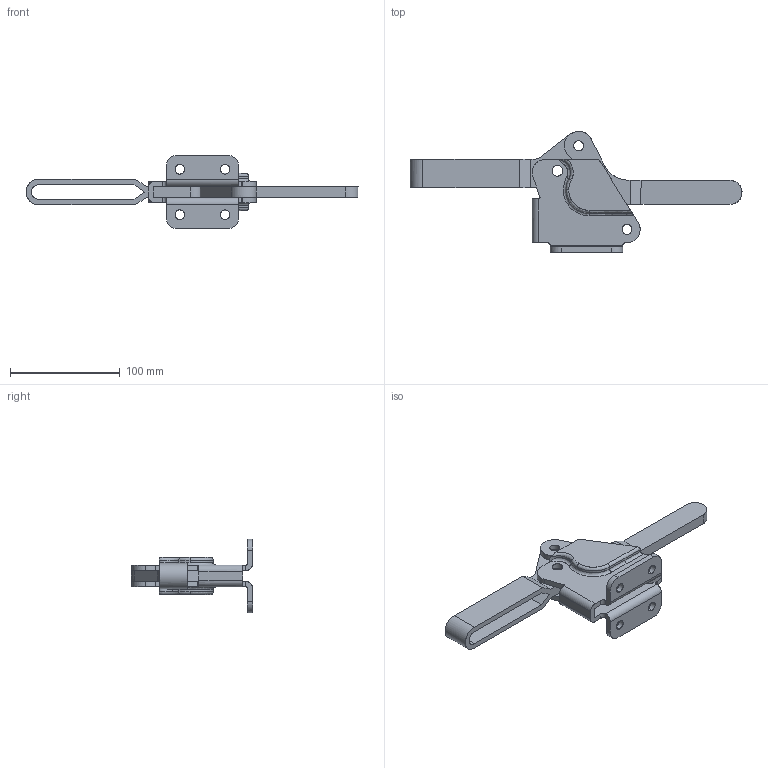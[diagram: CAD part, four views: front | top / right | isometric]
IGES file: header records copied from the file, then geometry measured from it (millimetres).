
Start section: Comment
Global section: file name: 24502b1.igs; native system:  By Spatial Corp.; preprocessor: XPlus PS/IGES 3.0; author: Author; organization: Title; date: 20050217.084053; units: inch
Bounding box: 302.92 x 110.44 x 67 mm (x, y, z)
Surface area: 81425.5 mm2 (no closed solid volume)
Topology: 0 solids, 0 shells, 194 faces, 1122 edges, 1118 vertices
Faces by surface type: revolution 120, extrusion 70, bspline 4
